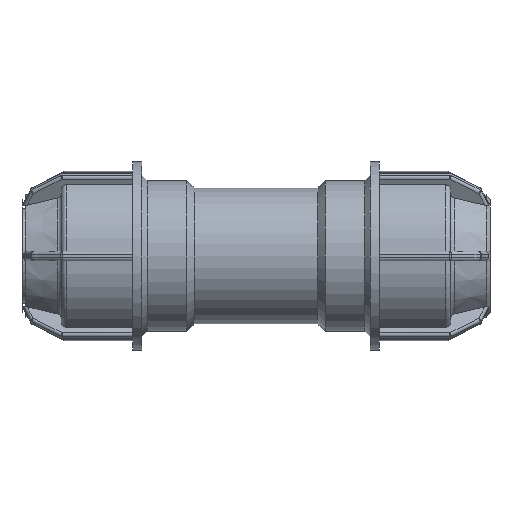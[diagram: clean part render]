
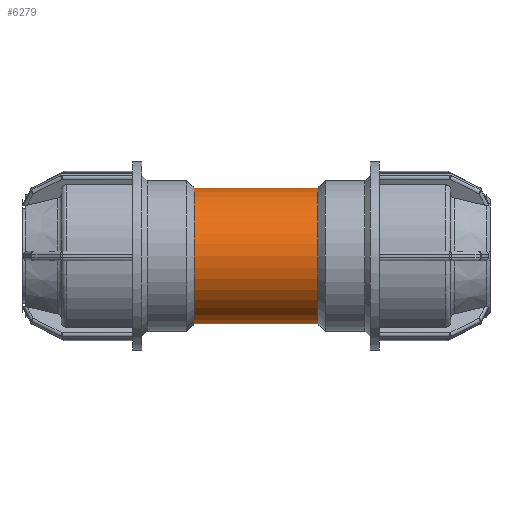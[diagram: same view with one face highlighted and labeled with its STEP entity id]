
A CAD part, front view. The second image highlights one B-rep face of the part: STEP entity #6279.
In plain terms, the highlighted cylindrical face has radius 18 mm (diameter 36 mm), a full revolution.
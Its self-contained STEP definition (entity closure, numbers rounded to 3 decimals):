
#1031=CIRCLE('',#6297,18.);
#1198=CIRCLE('',#6663,18.);
#1420=FACE_BOUND('',#2272,.T.);
#1421=FACE_BOUND('',#2273,.T.);
#1832=FACE_OUTER_BOUND('',#2271,.T.);
#2271=EDGE_LOOP('',(#5731));
#2272=EDGE_LOOP('',(#5732));
#2273=EDGE_LOOP('',(#5733));
#2297=B_SPLINE_CURVE_WITH_KNOTS('',3,(#8959,#8960,#8961,#8962,#8963,#8964,
#8965,#8966,#8967,#8968,#8969,#8970,#8971,#8972,#8973,#8974,#8975,#8976,
#8977,#8978,#8979,#8980,#8981,#8982,#8983,#8984,#8985,#8986,#8987,#8988,
#8989,#8990,#8991,#8992),.UNSPECIFIED.,.T.,.F.,(4,2,2,2,2,2,2,2,2,2,2,2,
2,2,2,2,4),(0.,0.287,0.573,0.859,1.145,
1.432,1.718,2.004,2.291,2.577,
2.864,3.15,3.436,3.722,4.009,
4.295,4.582),.UNSPECIFIED.);
#2481=VERTEX_POINT('',#8958);
#2483=VERTEX_POINT('',#8996);
#2746=VERTEX_POINT('',#10485);
#3021=EDGE_CURVE('',#2481,#2481,#2297,.T.);
#3023=EDGE_CURVE('',#2483,#2483,#1031,.T.);
#3472=EDGE_CURVE('',#2746,#2746,#1198,.T.);
#5731=ORIENTED_EDGE('',*,*,#3023,.T.);
#5732=ORIENTED_EDGE('',*,*,#3021,.T.);
#5733=ORIENTED_EDGE('',*,*,#3472,.F.);
#5874=CYLINDRICAL_SURFACE('',#7029,18.);
#6279=ADVANCED_FACE('',(#1832,#1420,#1421),#5874,.T.);
#6297=AXIS2_PLACEMENT_3D('',#8997,#7057,#7058);
#6663=AXIS2_PLACEMENT_3D('',#10486,#7969,#7970);
#7029=AXIS2_PLACEMENT_3D('',#11985,#8881,#8882);
#7057=DIRECTION('center_axis',(1.,0.,0.));
#7058=DIRECTION('ref_axis',(0.,0.,-1.));
#7969=DIRECTION('center_axis',(1.,0.,0.));
#7970=DIRECTION('ref_axis',(0.,0.,-1.));
#8881=DIRECTION('center_axis',(1.,0.,0.));
#8882=DIRECTION('ref_axis',(0.,1.,0.));
#8958=CARTESIAN_POINT('',(0.,16.363,-7.5));
#8959=CARTESIAN_POINT('Ctrl Pts',(0.,16.363,
-7.5));
#8960=CARTESIAN_POINT('Ctrl Pts',(0.955,16.363,-7.5));
#8961=CARTESIAN_POINT('Ctrl Pts',(1.964,16.456,-7.307));
#8962=CARTESIAN_POINT('Ctrl Pts',(3.808,16.776,-6.538));
#8963=CARTESIAN_POINT('Ctrl Pts',(4.643,16.998,-5.963));
#8964=CARTESIAN_POINT('Ctrl Pts',(5.962,17.404,-4.644));
#8965=CARTESIAN_POINT('Ctrl Pts',(6.538,17.617,-3.809));
#8966=CARTESIAN_POINT('Ctrl Pts',(7.307,17.917,-1.964));
#8967=CARTESIAN_POINT('Ctrl Pts',(7.5,18.,-0.954));
#8968=CARTESIAN_POINT('Ctrl Pts',(7.5,18.,0.954));
#8969=CARTESIAN_POINT('Ctrl Pts',(7.307,17.917,1.964));
#8970=CARTESIAN_POINT('Ctrl Pts',(6.538,17.617,3.809));
#8971=CARTESIAN_POINT('Ctrl Pts',(5.962,17.404,4.644));
#8972=CARTESIAN_POINT('Ctrl Pts',(4.643,16.998,5.963));
#8973=CARTESIAN_POINT('Ctrl Pts',(3.808,16.776,6.538));
#8974=CARTESIAN_POINT('Ctrl Pts',(1.964,16.456,7.307));
#8975=CARTESIAN_POINT('Ctrl Pts',(0.955,16.363,7.5));
#8976=CARTESIAN_POINT('Ctrl Pts',(-0.955,16.363,7.5));
#8977=CARTESIAN_POINT('Ctrl Pts',(-1.964,16.456,7.307));
#8978=CARTESIAN_POINT('Ctrl Pts',(-3.808,16.776,6.538));
#8979=CARTESIAN_POINT('Ctrl Pts',(-4.643,16.998,5.963));
#8980=CARTESIAN_POINT('Ctrl Pts',(-5.962,17.404,4.644));
#8981=CARTESIAN_POINT('Ctrl Pts',(-6.538,17.617,3.809));
#8982=CARTESIAN_POINT('Ctrl Pts',(-7.307,17.917,1.964));
#8983=CARTESIAN_POINT('Ctrl Pts',(-7.5,18.,0.954));
#8984=CARTESIAN_POINT('Ctrl Pts',(-7.5,18.,-0.954));
#8985=CARTESIAN_POINT('Ctrl Pts',(-7.307,17.917,-1.964));
#8986=CARTESIAN_POINT('Ctrl Pts',(-6.538,17.617,-3.809));
#8987=CARTESIAN_POINT('Ctrl Pts',(-5.962,17.404,-4.644));
#8988=CARTESIAN_POINT('Ctrl Pts',(-4.643,16.998,-5.963));
#8989=CARTESIAN_POINT('Ctrl Pts',(-3.808,16.776,-6.538));
#8990=CARTESIAN_POINT('Ctrl Pts',(-1.964,16.456,-7.307));
#8991=CARTESIAN_POINT('Ctrl Pts',(-0.955,16.363,-7.5));
#8992=CARTESIAN_POINT('Ctrl Pts',(0.,16.363,-7.5));
#8996=CARTESIAN_POINT('',(-16.4,18.,0.));
#8997=CARTESIAN_POINT('Origin',(-16.4,0.,0.));
#10485=CARTESIAN_POINT('',(16.4,18.,0.));
#10486=CARTESIAN_POINT('Origin',(16.4,0.,0.));
#11985=CARTESIAN_POINT('Origin',(8.2,0.,0.));
